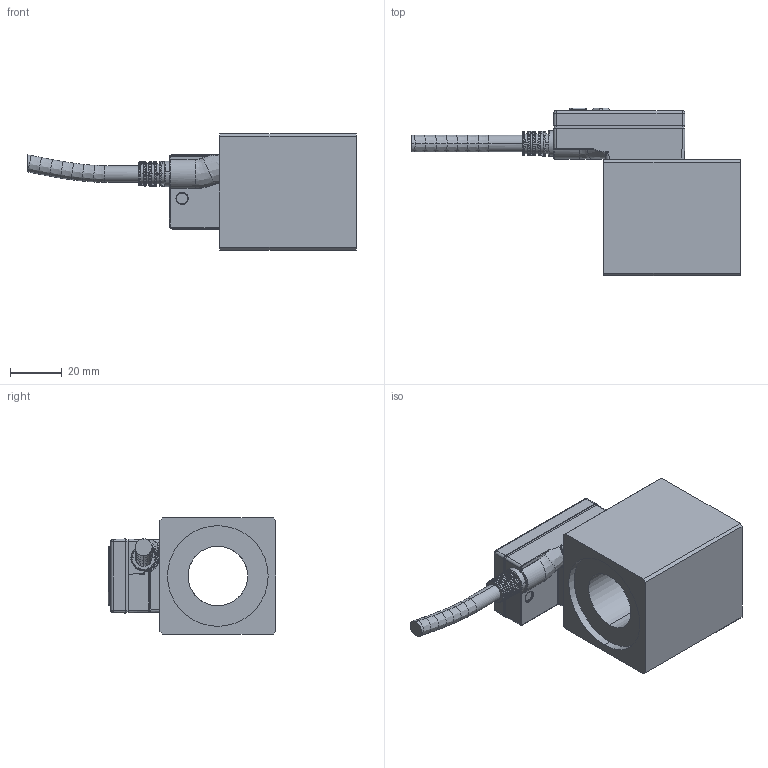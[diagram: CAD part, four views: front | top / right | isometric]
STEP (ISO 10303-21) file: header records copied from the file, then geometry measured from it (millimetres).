
FILE_DESCRIPTION (( 'STEP AP214' ), '1' );
FILE_NAME ('MP45_23x50-P1.STEP', '2015-07-28T12:50:46', ( '' ), ( '' ), 'SwSTEP 2.0', 'SolidWorks 2014', '' );
FILE_SCHEMA (( 'AUTOMOTIVE_DESIGN' ));
Length unit declared in the file: millimetre
Products named in the file (2): MP45_23x50-P1
Bounding box: 127.5 x 65 x 45 mm (x, y, z)
Volume: 110229.1 mm3; surface area: 26649.4 mm2
Topology: 2 solids, 23 shells, 818 faces, 2047 edges, 1310 vertices
Faces by surface type: plane 506, cylinder 142, bspline 122, cone 48
Entity records: 39278 total; most frequent: CARTESIAN_POINT 12143, ORIENTED_EDGE 4062, DIRECTION 3432, EDGE_CURVE 2031, VERTEX_POINT 1310, VECTOR 1300, LINE 1300, AXIS2_PLACEMENT_3D 1066
